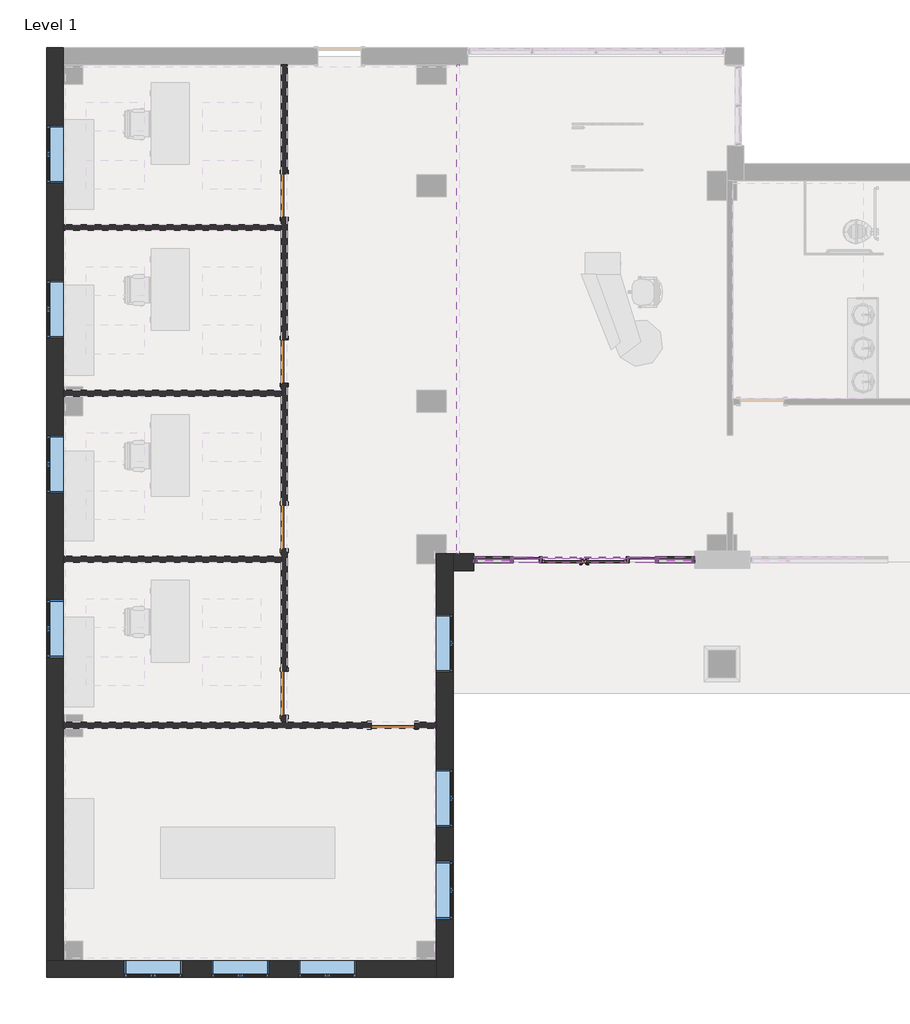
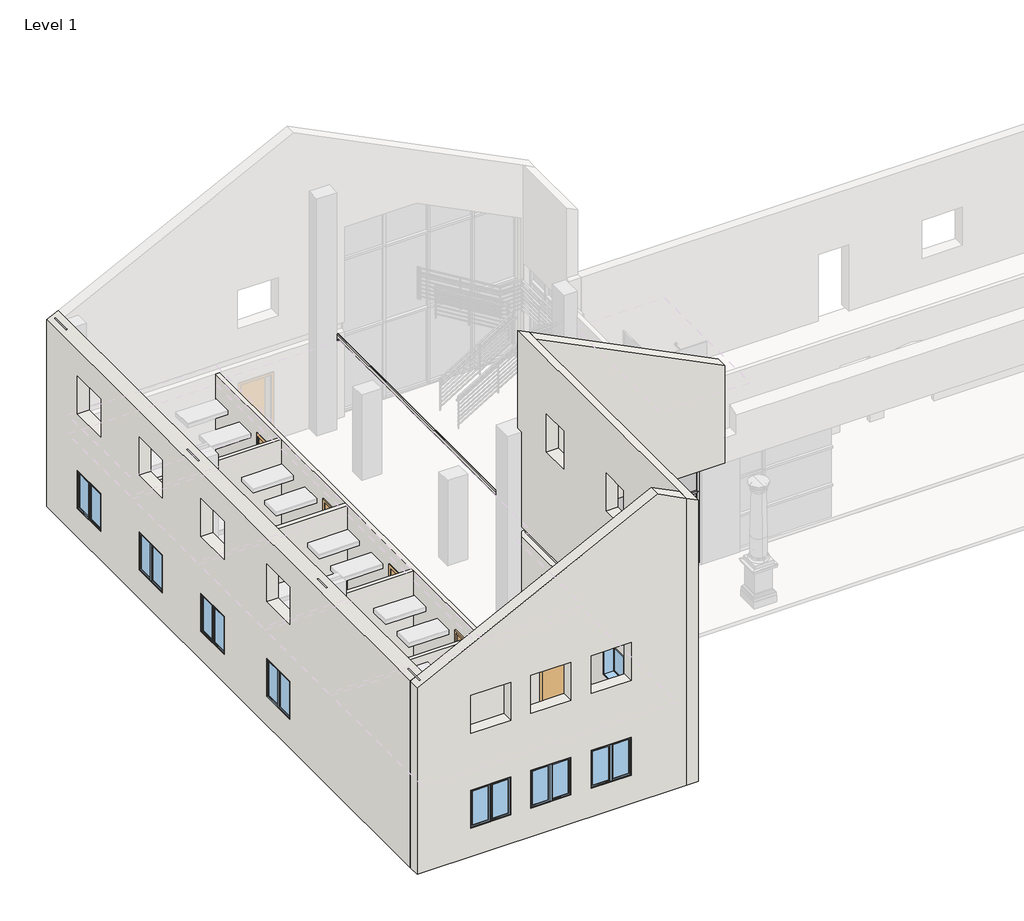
# One storey, part 1 of 8: 28 members, 10 walls, 10 windows, 9 plates, 6 doors.
"""IFC4 building model written with IfcOpenShell, lengths in millimetres."""

from ifc_helpers import new_model, si_unit, origin, origin_with_axes, place, context, project, spatial, polyline, outline, extrude, faceted_brep, transform, mapped, element, save
from components import curtain_wall_store_front_dbl_store_front_double_door_b1cda55e, door_eb9f8b14, member_a715cb85, member_2b49869a, member_c7c5a8a0, member_f3028526, member_75074519, member_c4de40ee, member_2fae0574, member_47bfaf8a, member_13dc6413, member_4ab4c2f5, member_b955a9e9, member_b5e65c95, member_b3f2e294, member_d60e8053, system_panel_glazed_53b4157c, system_panel_glazed_7b5ce646, system_panel_glazed_23a32a5b, system_panel_glazed_4b03a3f1, system_panel_glazed_8ee2ed70, system_panel_glazed_2f00aa6c, system_panel_solid_88a3d8df, system_panel_solid_fd037ff6, window_75435c65

model = new_model("IFC4")

# Units and contexts
model_context = context("Model", 3, world=origin())
ifc_project = project(units=[si_unit("LENGTHUNIT", "METRE", prefix="MILLI")], contexts=[model_context])

# Site, building, storey
site = spatial("IfcSite", under=ifc_project)
building = spatial("IfcBuilding", under=site)
storey = spatial("IfcBuildingStorey", under=building, Name="Level 1", Elevation=0.0)

# Doors
placement = place(None, origin())
curtain_wall_store_front_dbl_store_front_double_door_shape = curtain_wall_store_front_dbl_store_front_double_door_b1cda55e(model_context)
element("IfcDoor", 1, ObjectType="Curtain Wall-Store Front-Dbl : Store Front Double Door", at=placement, inside=storey, context=model_context, shape_type="MappedRepresentation", body=[
    mapped(curtain_wall_store_front_dbl_store_front_double_door_shape, transform((-2655.3516552, 175.3980424, 0.0), x_axis=(1.0, 0.0, 0.0), y_axis=(0.0, 1.0, 0.0), z_axis=(0.0, 0.0, 1.0))),
])
door_shape = door_eb9f8b14(model_context)
element("IfcDoor", 2, ObjectType="Single-Flush : 36\" x 84\"", at=placement, inside=storey, context=model_context, shape_type="MappedRepresentation", body=[
    mapped(door_shape, transform((-6668.5516552, -3294.8769576, 0.0), x_axis=(1.0, 0.0, 0.0), y_axis=(0.0, 1.0, 0.0), z_axis=(0.0, 0.0, 1.0))),
])
element("IfcDoor", 3, ObjectType="Single-Flush : 36\" x 84\"", at=placement, inside=storey, context=model_context, shape_type="MappedRepresentation", body=[
    mapped(door_shape, transform((-8949.7891552, -2623.3644576, 0.0), x_axis=(0.0, -1.0, 0.0), y_axis=(1.0, 0.0, 0.0), z_axis=(0.0, 0.0, 1.0))),
])
element("IfcDoor", 4, ObjectType="Single-Flush : 36\" x 84\"", at=placement, inside=storey, context=model_context, shape_type="MappedRepresentation", body=[
    mapped(door_shape, transform((-8949.7891552, 862.7855424, 0.0), x_axis=(0.0, -1.0, 0.0), y_axis=(1.0, 0.0, 0.0), z_axis=(0.0, 0.0, 1.0))),
])
element("IfcDoor", 5, ObjectType="Single-Flush : 36\" x 84\"", at=placement, inside=storey, context=model_context, shape_type="MappedRepresentation", body=[
    mapped(door_shape, transform((-8949.7891552, 4339.4105424, 0.0), x_axis=(0.0, -1.0, 0.0), y_axis=(1.0, 0.0, 0.0), z_axis=(0.0, 0.0, 1.0))),
])
element("IfcDoor", 6, ObjectType="Single-Flush : 36\" x 84\"", at=placement, inside=storey, context=model_context, shape_type="MappedRepresentation", body=[
    mapped(door_shape, transform((-8949.7891552, 7820.7980424, 0.0), x_axis=(0.0, -1.0, 0.0), y_axis=(1.0, 0.0, 0.0), z_axis=(0.0, 0.0, 1.0))),
])

# Members
member_shape = member_a715cb85(model_context)
element("IfcMember", 7, ObjectType="Rectangular Mullion : 2.5\" x 5\" Rectangular", at=placement, inside=storey, context=model_context, shape_type="MappedRepresentation", body=[
    mapped(member_shape, transform((-4179.3516552, 175.3980424, 0.0), x_axis=(1.0, 0.0, 0.0), y_axis=(0.0, -1.0, 0.0), z_axis=(0.0, 0.0, -1.0))),
])
element("IfcMember", 8, ObjectType="Rectangular Mullion : 2.5\" x 5\" Rectangular", at=placement, inside=storey, context=model_context, shape_type="MappedRepresentation", body=[
    mapped(member_shape, transform((-1131.3516552, 175.3980424, 0.0), x_axis=(1.0, 0.0, 0.0), y_axis=(0.0, -1.0, 0.0), z_axis=(0.0, 0.0, -1.0))),
])
element("IfcMember", 9, ObjectType="Rectangular Mullion : 2.5\" x 5\" Rectangular", at=placement, inside=storey, context=model_context, shape_type="MappedRepresentation", body=[
    mapped(member_shape, transform((-369.3516552, 175.3980424, 0.0), x_axis=(1.0, 0.0, 0.0), y_axis=(0.0, -1.0, 0.0), z_axis=(0.0, 0.0, -1.0))),
])
member_2_shape = member_2b49869a(model_context)
element("IfcMember", 10, ObjectType="Rectangular Mullion : 2.5\" x 5\" Rectangular", at=placement, inside=storey, context=model_context, shape_type="MappedRepresentation", body=[
    mapped(member_2_shape, transform((-4179.3516552, 175.3980424, 1066.8), x_axis=(1.0, 0.0, 0.0), y_axis=(0.0, -1.0, 0.0), z_axis=(0.0, 0.0, -1.0))),
])
element("IfcMember", 11, ObjectType="Rectangular Mullion : 2.5\" x 5\" Rectangular", at=placement, inside=storey, context=model_context, shape_type="MappedRepresentation", body=[
    mapped(member_2_shape, transform((-1131.3516552, 175.3980424, 1066.8), x_axis=(1.0, 0.0, 0.0), y_axis=(0.0, -1.0, 0.0), z_axis=(0.0, 0.0, -1.0))),
])
element("IfcMember", 12, ObjectType="Rectangular Mullion : 2.5\" x 5\" Rectangular", at=placement, inside=storey, context=model_context, shape_type="MappedRepresentation", body=[
    mapped(member_2_shape, transform((-369.3516552, 175.3980424, 1066.8), x_axis=(1.0, 0.0, 0.0), y_axis=(0.0, -1.0, 0.0), z_axis=(0.0, 0.0, -1.0))),
])
member_3_shape = member_c7c5a8a0(model_context)
element("IfcMember", 13, ObjectType="Rectangular Mullion : 2.5\" x 5\" Rectangular", at=placement, inside=storey, context=model_context, shape_type="MappedRepresentation", body=[
    mapped(member_3_shape, transform((-401.1016552, 175.3980424, 2286.0), x_axis=(0.0, 0.0, 1.0), y_axis=(0.0, -1.0, 0.0), z_axis=(1.0, 0.0, 0.0))),
])
element("IfcMember", 14, ObjectType="Rectangular Mullion : 2.5\" x 5\" Rectangular", at=placement, inside=storey, context=model_context, shape_type="MappedRepresentation", body=[
    mapped(member_3_shape, transform((-401.1016552, 175.3980424, 1066.8), x_axis=(0.0, 0.0, 1.0), y_axis=(0.0, -1.0, 0.0), z_axis=(1.0, 0.0, 0.0))),
])
member_4_shape = member_f3028526(model_context)
element("IfcMember", 15, ObjectType="Rectangular Mullion : 2.5\" x 5\" Rectangular", at=placement, inside=storey, context=model_context, shape_type="MappedRepresentation", body=[
    mapped(member_4_shape, transform((-4211.1016552, 175.3980424, 2286.0), x_axis=(0.0, 0.0, 1.0), y_axis=(0.0, -1.0, 0.0), z_axis=(1.0, 0.0, 0.0))),
])
element("IfcMember", 16, ObjectType="Rectangular Mullion : 2.5\" x 5\" Rectangular", at=placement, inside=storey, context=model_context, shape_type="MappedRepresentation", body=[
    mapped(member_4_shape, transform((-4211.1016552, 175.3980424, 1066.8), x_axis=(0.0, 0.0, 1.0), y_axis=(0.0, -1.0, 0.0), z_axis=(1.0, 0.0, 0.0))),
])
member_5_shape = member_75074519(model_context)
element("IfcMember", 17, ObjectType="Rectangular Mullion : 2.5\" x 5\" Rectangular", at=placement, inside=storey, context=model_context, shape_type="MappedRepresentation", body=[
    mapped(member_5_shape, transform((-4968.3391552, 175.3980424, 2286.0), x_axis=(-1.0, 0.0, 0.0), y_axis=(0.0, -1.0, 0.0), z_axis=(0.0, 0.0, 1.0))),
])
member_6_shape = member_c4de40ee(model_context)
element("IfcMember", 18, ObjectType="Rectangular Mullion : 2.5\" x 5\" Rectangular", at=placement, inside=storey, context=model_context, shape_type="MappedRepresentation", body=[
    mapped(member_6_shape, transform((-4968.3391552, 175.3980424, 1066.8), x_axis=(-1.0, 0.0, 0.0), y_axis=(0.0, -1.0, 0.0), z_axis=(0.0, 0.0, 1.0))),
])
member_7_shape = member_2fae0574(model_context)
element("IfcMember", 19, ObjectType="Rectangular Mullion : 2.5\" x 5\" Rectangular", at=placement, inside=storey, context=model_context, shape_type="MappedRepresentation", body=[
    mapped(member_7_shape, transform((-1740.9516552, 175.3980424, 3048.0), x_axis=(0.0, 0.0, 1.0), y_axis=(0.0, -1.0, 0.0), z_axis=(1.0, 0.0, 0.0))),
])
element("IfcMember", 20, ObjectType="Rectangular Mullion : 2.5\" x 5\" Rectangular", at=placement, inside=storey, context=model_context, shape_type="MappedRepresentation", body=[
    mapped(member_3_shape, transform((-4179.3516552, 175.3980424, 2286.0), x_axis=(1.0, 0.0, 0.0), y_axis=(0.0, -1.0, 0.0), z_axis=(0.0, 0.0, -1.0))),
])
element("IfcMember", 21, ObjectType="Rectangular Mullion : 2.5\" x 5\" Rectangular", at=placement, inside=storey, context=model_context, shape_type="MappedRepresentation", body=[
    mapped(member_3_shape, transform((-1131.3516552, 175.3980424, 2286.0), x_axis=(1.0, 0.0, 0.0), y_axis=(0.0, -1.0, 0.0), z_axis=(0.0, 0.0, -1.0))),
])
element("IfcMember", 22, ObjectType="Rectangular Mullion : 2.5\" x 5\" Rectangular", at=placement, inside=storey, context=model_context, shape_type="MappedRepresentation", body=[
    mapped(member_3_shape, transform((-369.3516552, 175.3980424, 2286.0), x_axis=(1.0, 0.0, 0.0), y_axis=(0.0, -1.0, 0.0), z_axis=(0.0, 0.0, -1.0))),
])
member_8_shape = member_47bfaf8a(model_context)
element("IfcMember", 23, ObjectType="Rectangular Mullion : 2.5\" x 5\" Rectangular", at=placement, inside=storey, context=model_context, shape_type="MappedRepresentation", body=[
    mapped(member_8_shape, transform((-3569.7516552, 175.3980424, 3048.0), x_axis=(0.0, 0.0, 1.0), y_axis=(0.0, -1.0, 0.0), z_axis=(1.0, 0.0, 0.0))),
])
element("IfcMember", 24, ObjectType="Rectangular Mullion : 2.5\" x 5\" Rectangular", at=placement, inside=storey, context=model_context, shape_type="MappedRepresentation", body=[
    mapped(member_8_shape, transform((-1131.3516552, 175.3980424, 3048.0), x_axis=(0.0, 0.0, 1.0), y_axis=(0.0, -1.0, 0.0), z_axis=(1.0, 0.0, 0.0))),
])
member_9_shape = member_13dc6413(model_context)
element("IfcMember", 25, ObjectType="Rectangular Mullion : 2.5\" x 5\" Rectangular", at=placement, inside=storey, context=model_context, shape_type="MappedRepresentation", body=[
    mapped(member_9_shape, transform((-337.6016552, 175.3980424, 3048.0), x_axis=(0.0, 0.0, 1.0), y_axis=(0.0, -1.0, 0.0), z_axis=(1.0, 0.0, 0.0))),
])
member_10_shape = member_4ab4c2f5(model_context)
element("IfcMember", 26, ObjectType="Rectangular Mullion : 2.5\" x 5\" Rectangular", at=placement, inside=storey, context=model_context, shape_type="MappedRepresentation", body=[
    mapped(member_10_shape, transform((-4179.3516552, 175.3980424, 3048.0), x_axis=(0.0, 0.0, 1.0), y_axis=(0.0, -1.0, 0.0), z_axis=(1.0, 0.0, 0.0))),
])
member_11_shape = member_b955a9e9(model_context)
element("IfcMember", 27, ObjectType="Rectangular Mullion : 2.5\" x 5\" Rectangular", at=placement, inside=storey, context=model_context, shape_type="MappedRepresentation", body=[
    mapped(member_11_shape, transform((-4968.3391552, 175.3980424, 2984.5), x_axis=(-1.0, 0.0, 0.0), y_axis=(0.0, -1.0, 0.0), z_axis=(0.0, 0.0, 1.0))),
])
element("IfcMember", 28, ObjectType="Rectangular Mullion : 2.5\" x 5\" Rectangular", at=placement, inside=storey, context=model_context, shape_type="MappedRepresentation", body=[
    mapped(member_shape, transform((-3569.7516552, 175.3980424, 0.0), x_axis=(1.0, 0.0, 0.0), y_axis=(0.0, -1.0, 0.0), z_axis=(0.0, 0.0, -1.0))),
])
element("IfcMember", 29, ObjectType="Rectangular Mullion : 2.5\" x 5\" Rectangular", at=placement, inside=storey, context=model_context, shape_type="MappedRepresentation", body=[
    mapped(member_shape, transform((-1740.9516552, 175.3980424, 0.0), x_axis=(1.0, 0.0, 0.0), y_axis=(0.0, -1.0, 0.0), z_axis=(0.0, 0.0, -1.0))),
])
member_12_shape = member_b5e65c95(model_context)
element("IfcMember", 30, ObjectType="Rectangular Mullion : 2.5\" x 5\" Rectangular", at=placement, inside=storey, context=model_context, shape_type="MappedRepresentation", body=[
    mapped(member_12_shape, transform((-3569.7516552, 175.3980424, 2286.0), x_axis=(0.0, 0.0, 1.0), y_axis=(0.0, -1.0, 0.0), z_axis=(1.0, 0.0, 0.0))),
])
member_13_shape = member_b3f2e294(model_context)
element("IfcMember", 31, ObjectType="Rectangular Mullion : 2.5\" x 5\" Rectangular", at=placement, inside=storey, context=model_context, shape_type="MappedRepresentation", body=[
    mapped(member_13_shape, transform((-3569.7516552, 175.3980424, 1066.8), x_axis=(1.0, 0.0, 0.0), y_axis=(0.0, -1.0, 0.0), z_axis=(0.0, 0.0, -1.0))),
])
element("IfcMember", 32, ObjectType="Rectangular Mullion : 2.5\" x 5\" Rectangular", at=placement, inside=storey, context=model_context, shape_type="MappedRepresentation", body=[
    mapped(member_13_shape, transform((-1740.9516552, 175.3980424, 1066.8), x_axis=(1.0, 0.0, 0.0), y_axis=(0.0, -1.0, 0.0), z_axis=(0.0, 0.0, -1.0))),
])
element("IfcMember", 33, ObjectType="Rectangular Mullion : 2.5\" x 5\" Rectangular", at=placement, inside=storey, context=model_context, shape_type="MappedRepresentation", body=[
    mapped(member_12_shape, transform((-1163.1016552, 175.3980424, 2286.0), x_axis=(0.0, 0.0, 1.0), y_axis=(0.0, -1.0, 0.0), z_axis=(1.0, 0.0, 0.0))),
])
member_14_shape = member_d60e8053(model_context)
element("IfcMember", 34, ObjectType="Rectangular Mullion : 2.5\" x 5\" Rectangular", at=placement, inside=storey, context=model_context, shape_type="MappedRepresentation", body=[
    mapped(member_14_shape, transform((-1740.9516552, 175.3980424, 2286.0), x_axis=(0.0, 0.0, 1.0), y_axis=(0.0, -1.0, 0.0), z_axis=(1.0, 0.0, 0.0))),
])

# Plates
system_panel_glazed_shape = system_panel_glazed_53b4157c(model_context)
element("IfcPlate", 35, ObjectType="System Panel : Glazed", at=placement, inside=storey, context=model_context, shape_type="MappedRepresentation", body=[
    mapped(system_panel_glazed_shape, transform((-750.3516552, 175.3980424, 0.0), x_axis=(1.0, 0.0, 0.0), y_axis=(0.0, 1.0, 0.0), z_axis=(0.0, 0.0, 1.0))),
])
system_panel_glazed_2_shape = system_panel_glazed_7b5ce646(model_context)
element("IfcPlate", 36, ObjectType="System Panel : Glazed", at=placement, inside=storey, context=model_context, shape_type="MappedRepresentation", body=[
    mapped(system_panel_glazed_2_shape, transform((-750.3516552, 175.3980424, 1098.55), x_axis=(1.0, 0.0, 0.0), y_axis=(0.0, 1.0, 0.0), z_axis=(0.0, 0.0, 1.0))),
])
system_panel_glazed_3_shape = system_panel_glazed_23a32a5b(model_context)
element("IfcPlate", 37, ObjectType="System Panel : Glazed", at=placement, inside=storey, context=model_context, shape_type="MappedRepresentation", body=[
    mapped(system_panel_glazed_3_shape, transform((-4557.9704052, 175.3980424, 0.0), x_axis=(1.0, 0.0, 0.0), y_axis=(0.0, 1.0, 0.0), z_axis=(0.0, 0.0, 1.0))),
])
system_panel_glazed_4_shape = system_panel_glazed_4b03a3f1(model_context)
element("IfcPlate", 38, ObjectType="System Panel : Glazed", at=placement, inside=storey, context=model_context, shape_type="MappedRepresentation", body=[
    mapped(system_panel_glazed_4_shape, transform((-4557.9704052, 175.3980424, 1098.55), x_axis=(1.0, 0.0, 0.0), y_axis=(0.0, 1.0, 0.0), z_axis=(0.0, 0.0, 1.0))),
])
system_panel_glazed_5_shape = system_panel_glazed_8ee2ed70(model_context)
element("IfcPlate", 39, ObjectType="System Panel : Glazed", at=placement, inside=storey, context=model_context, shape_type="MappedRepresentation", body=[
    mapped(system_panel_glazed_5_shape, transform((-2655.3516552, 175.3980424, 2317.75), x_axis=(1.0, 0.0, 0.0), y_axis=(0.0, 1.0, 0.0), z_axis=(0.0, 0.0, 1.0))),
])
system_panel_glazed_6_shape = system_panel_glazed_2f00aa6c(model_context)
element("IfcPlate", 40, ObjectType="System Panel : Glazed", at=placement, inside=storey, context=model_context, shape_type="MappedRepresentation", body=[
    mapped(system_panel_glazed_6_shape, transform((-3874.5516552, 175.3980424, 0.0), x_axis=(1.0, 0.0, 0.0), y_axis=(0.0, 1.0, 0.0), z_axis=(0.0, 0.0, 1.0))),
])
element("IfcPlate", 41, ObjectType="System Panel : Glazed", at=placement, inside=storey, context=model_context, shape_type="MappedRepresentation", body=[
    mapped(system_panel_glazed_6_shape, transform((-1436.1516552, 175.3980424, 0.0), x_axis=(1.0, 0.0, 0.0), y_axis=(0.0, 1.0, 0.0), z_axis=(0.0, 0.0, 1.0))),
])
system_panel_solid_shape = system_panel_solid_88a3d8df(model_context)
element("IfcPlate", 42, ObjectType="System Panel : Solid", at=placement, inside=storey, context=model_context, shape_type="MappedRepresentation", body=[
    mapped(system_panel_solid_shape, transform((-4557.9704052, 175.3980424, 2317.75), x_axis=(1.0, 0.0, 0.0), y_axis=(0.0, 1.0, 0.0), z_axis=(0.0, 0.0, 1.0))),
])
system_panel_solid_2_shape = system_panel_solid_fd037ff6(model_context)
element("IfcPlate", 43, ObjectType="System Panel : Solid", at=placement, inside=storey, context=model_context, shape_type="MappedRepresentation", body=[
    mapped(system_panel_solid_2_shape, transform((-750.3516552, 175.3980424, 2317.75), x_axis=(1.0, 0.0, 0.0), y_axis=(0.0, 1.0, 0.0), z_axis=(0.0, 0.0, 1.0))),
])

# Walls
element("IfcWall", 44, ObjectType="Soffit - 1/2\" GWB & Metal Stud", at=placement, inside=storey, context=model_context, shape_type="Brep", body=[
    faceted_brep([(-5273.1391552, 10568.7605424, 2743.2), (-5273.1391552, 300.8105424, 2743.2), (-5273.1391552, 300.8105424, 2540.0), (-5273.1391552, 351.6105424, 2540.0), (-5273.1391552, 351.6105424, 2647.95), (-5273.1391552, 10517.9605424, 2647.95), (-5273.1391552, 10517.9605424, 2540.0), (-5273.1391552, 10568.7605424, 2540.0), (-5323.9391552, 10568.7605424, 2743.2), (-5323.9391552, 10568.7605424, 2540.0), (-5323.9391552, 10517.9605424, 2540.0), (-5323.9391552, 10517.9605424, 2647.95), (-5323.9391552, 351.6105424, 2647.95), (-5323.9391552, 351.6105424, 2540.0), (-5323.9391552, 300.8105424, 2540.0), (-5323.9391552, 300.8105424, 2743.2), (-5284.2516552, 10568.7605424, 2743.2), (-5284.2516552, 9554.527236, 2743.2), (-5284.2516552, 300.8105424, 2743.2)], [[[0, 1, 2, 3, 4, 5, 6, 7]], [[8, 9, 10, 11, 12, 13, 14, 15]], [[9, 7, 6, 10]], [[2, 14, 13, 3]], [[11, 5, 4, 12]], [[12, 4, 3, 13]], [[5, 11, 10, 6]], [[1, 0, 16, 17, 18]], [[0, 7, 9, 8, 16]], [[2, 1, 18, 15, 14]], [[16, 8, 15, 18, 17]]]),
])
element("IfcWall", 45, ObjectType="Exterior - Brick on Mtl. Stud", at=placement, inside=storey, context=model_context, shape_type="Brep", body=[
    faceted_brep([(-5754.1516552, 300.8105424, 0.0), (-5754.1516552, 97.6105424, 0.0), (-5754.1516552, -3232.9644576, 0.0), (-5754.1516552, -3356.7894576, 0.0), (-5754.1516552, -7824.0144576, 0.0), (-5754.1516552, -8233.5894576, 0.0), (-5754.1516552, -8586.0144576, 0.0), (-5754.1516552, -8586.0144576, 9226.55), (-5754.1516552, -8233.5894576, 9226.55), (-5754.1516552, 300.8105424, 9226.55), (-5754.1516552, 300.8105424, 6096.0), (-5754.1516552, 300.8105424, 3048.0), (-5754.1516552, -3232.9644576, 3048.0), (-5754.1516552, -3356.7894576, 3048.0), (-5754.1516552, -8233.5894576, 3048.0), (-5754.1516552, -8398.6894576, 3048.0), (-5754.1516552, -8398.6894576, 2743.2), (-5754.1516552, -8233.5894576, 2743.2), (-5754.1516552, -3356.7894576, 2743.2), (-5754.1516552, -3232.9644576, 2743.2), (-5754.1516552, 300.8105424, 2743.2), (-5754.1516552, -7366.8144576, 2133.6), (-5754.1516552, -7366.8144576, 914.4), (-5754.1516552, -6147.6144576, 914.4), (-5754.1516552, -6147.6144576, 2133.6), (-5754.1516552, -5436.4144576, 2133.6), (-5754.1516552, -5436.4144576, 914.4), (-5754.1516552, -4217.2144576, 914.4), (-5754.1516552, -4217.2144576, 2133.6), (-5754.1516552, -2185.2144576, 2133.6), (-5754.1516552, -2185.2144576, 914.4), (-5754.1516552, -966.0144576, 914.4), (-5754.1516552, -966.0144576, 2133.6), (-5754.1516552, -2134.4144576, 7467.6), (-5754.1516552, -2134.4144576, 6248.4), (-5754.1516552, -1220.0144576, 6248.4), (-5754.1516552, -1220.0144576, 7467.6), (-5754.1516552, -5268.1394576, 7467.6), (-5754.1516552, -5268.1394576, 6248.4), (-5754.1516552, -4353.7394576, 6248.4), (-5754.1516552, -4353.7394576, 7467.6), (-5754.1516552, -7166.7894576, 7467.6), (-5754.1516552, -7166.7894576, 6248.4), (-5754.1516552, -6252.3894576, 6248.4), (-5754.1516552, -6252.3894576, 7467.6), (-5754.1516552, -5420.5394576, 5181.6), (-5754.1516552, -5420.5394576, 3962.4), (-5754.1516552, -4201.3394576, 3962.4), (-5754.1516552, -4201.3394576, 5181.6), (-5754.1516552, -7319.1894576, 5181.6), (-5754.1516552, -7319.1894576, 3962.4), (-5754.1516552, -6099.9894576, 3962.4), (-5754.1516552, -6099.9894576, 5181.6), (-5401.7266552, -8586.0144576, 0.0), (-5401.7266552, -51.6144576, 0.0), (-5401.7266552, 300.8105424, 0.0), (-5401.7266552, 300.8105424, 2743.2), (-5401.7266552, 175.3980424, 2743.2), (-5401.7266552, 175.3980424, 3048.0), (-5401.7266552, 300.8105424, 3048.0), (-5401.7266552, 300.8105424, 9050.3375), (-5401.7266552, -51.6144576, 9050.3375), (-5401.7266552, -8586.0144576, 9050.3375), (-5401.7266552, -7366.8144576, 914.4), (-5401.7266552, -7366.8144576, 2133.6), (-5401.7266552, -6147.6144576, 2133.6), (-5401.7266552, -6147.6144576, 914.4), (-5401.7266552, -5436.4144576, 914.4), (-5401.7266552, -5436.4144576, 2133.6), (-5401.7266552, -4217.2144576, 2133.6), (-5401.7266552, -4217.2144576, 914.4), (-5401.7266552, -2185.2144576, 914.4), (-5401.7266552, -2185.2144576, 2133.6), (-5401.7266552, -966.0144576, 2133.6), (-5401.7266552, -966.0144576, 914.4), (-5401.7266552, -2134.4144576, 6248.4), (-5401.7266552, -2134.4144576, 7467.6), (-5401.7266552, -1220.0144576, 7467.6), (-5401.7266552, -1220.0144576, 6248.4), (-5401.7266552, -5268.1394576, 6248.4), (-5401.7266552, -5268.1394576, 7467.6), (-5401.7266552, -4353.7394576, 7467.6), (-5401.7266552, -4353.7394576, 6248.4), (-5401.7266552, -7166.7894576, 6248.4), (-5401.7266552, -7166.7894576, 7467.6), (-5401.7266552, -6252.3894576, 7467.6), (-5401.7266552, -6252.3894576, 6248.4), (-5401.7266552, -5420.5394576, 3962.4), (-5401.7266552, -5420.5394576, 5181.6), (-5401.7266552, -4201.3394576, 5181.6), (-5401.7266552, -4201.3394576, 3962.4), (-5401.7266552, -7319.1894576, 3962.4), (-5401.7266552, -7319.1894576, 5181.6), (-5401.7266552, -6099.9894576, 5181.6), (-5401.7266552, -6099.9894576, 3962.4), (-5554.1266552, 300.8105424, 0.0), (-5589.0516552, -8398.6894576, 2743.2), (-5589.0516552, 175.3980424, 2743.2), (-5589.0516552, 175.3980424, 3048.0), (-5589.0516552, -8398.6894576, 3048.0)], [[[0, 1, 2, 3, 4, 5, 6, 7, 8, 9, 10, 11, 12, 13, 14, 15, 16, 17, 18, 19, 20], [21, 22, 23, 24], [25, 26, 27, 28], [29, 30, 31, 32], [33, 34, 35, 36], [37, 38, 39, 40], [41, 42, 43, 44], [45, 46, 47, 48], [49, 50, 51, 52]], [[53, 54, 55, 56, 57, 58, 59, 60, 61, 62], [63, 64, 65, 66], [67, 68, 69, 70], [71, 72, 73, 74], [75, 76, 77, 78], [79, 80, 81, 82], [83, 84, 85, 86], [87, 88, 89, 90], [91, 92, 93, 94]], [[6, 5, 4, 3, 2, 1, 0, 95, 55, 54, 53]], [[22, 21, 64, 63]], [[23, 22, 63, 66]], [[24, 23, 66, 65]], [[21, 24, 65, 64]], [[26, 25, 68, 67]], [[27, 26, 67, 70]], [[28, 27, 70, 69]], [[25, 28, 69, 68]], [[30, 29, 72, 71]], [[31, 30, 71, 74]], [[32, 31, 74, 73]], [[29, 32, 73, 72]], [[9, 8, 7, 62, 61, 60]], [[34, 33, 76, 75]], [[35, 34, 75, 78]], [[36, 35, 78, 77]], [[33, 36, 77, 76]], [[38, 37, 80, 79]], [[39, 38, 79, 82]], [[40, 39, 82, 81]], [[37, 40, 81, 80]], [[42, 41, 84, 83]], [[43, 42, 83, 86]], [[44, 43, 86, 85]], [[41, 44, 85, 84]], [[46, 45, 88, 87]], [[47, 46, 87, 90]], [[48, 47, 90, 89]], [[45, 48, 89, 88]], [[50, 49, 92, 91]], [[51, 50, 91, 94]], [[52, 51, 94, 93]], [[49, 52, 93, 92]], [[96, 97, 57, 56, 20, 19, 18, 17, 16]], [[98, 99, 15, 14, 13, 12, 11, 59, 58]], [[97, 96, 99, 98]], [[99, 96, 16, 15]], [[9, 60, 59, 11, 10]], [[55, 95, 0, 20, 56]], [[7, 6, 53, 62]], [[97, 98, 58, 57]]]),
])
element("IfcWall", 46, ObjectType="Exterior - Brick on Mtl. Stud", at=placement, inside=storey, context=model_context, shape_type="Brep", body=[
    faceted_brep([(-5754.1516552, -8233.5894576, 0.0), (-6163.7266552, -8233.5894576, 0.0), (-13174.1266552, -8233.5894576, 0.0), (-13583.7016552, -8233.5894576, 0.0), (-13936.1266552, -8233.5894576, 0.0), (-13936.1266552, -8233.5894576, 6002.3375), (-13583.7016552, -8233.5894576, 6178.55), (-6620.9266552, -8233.5894576, 9659.9375), (-5754.1516552, -8233.5894576, 9226.55), (-5754.1516552, -8233.5894576, 6096.0), (-5754.1516552, -8233.5894576, 3048.0), (-13583.7016552, -8233.5894576, 3048.0), (-13596.4016552, -8233.5894576, 3048.0), (-13596.4016552, -8233.5894576, 2743.2), (-13583.7016552, -8233.5894576, 2743.2), (-5754.1516552, -8233.5894576, 2743.2), (-12310.5266552, -8233.5894576, 2133.6), (-12310.5266552, -8233.5894576, 914.4), (-11091.3266552, -8233.5894576, 914.4), (-11091.3266552, -8233.5894576, 2133.6), (-10481.7266552, -8233.5894576, 2133.6), (-10481.7266552, -8233.5894576, 914.4), (-9262.5266552, -8233.5894576, 914.4), (-9262.5266552, -8233.5894576, 2133.6), (-8652.9266552, -8233.5894576, 2133.6), (-8652.9266552, -8233.5894576, 914.4), (-7433.7266552, -8233.5894576, 914.4), (-7433.7266552, -8233.5894576, 2133.6), (-8652.9266552, -8233.5894576, 5181.6), (-8652.9266552, -8233.5894576, 3962.4), (-7433.7266552, -8233.5894576, 3962.4), (-7433.7266552, -8233.5894576, 5181.6), (-10481.7266552, -8233.5894576, 5181.6), (-10481.7266552, -8233.5894576, 3962.4), (-9262.5266552, -8233.5894576, 3962.4), (-9262.5266552, -8233.5894576, 5181.6), (-12310.5266552, -8233.5894576, 5181.6), (-12310.5266552, -8233.5894576, 3962.4), (-11091.3266552, -8233.5894576, 3962.4), (-11091.3266552, -8233.5894576, 5181.6), (-13936.1266552, -8586.0144576, 0.0), (-5754.1516552, -8586.0144576, 0.0), (-5754.1516552, -8586.0144576, 9226.55), (-6620.9266552, -8586.0144576, 9659.9375), (-13936.1266552, -8586.0144576, 6002.3375), (-12310.5266552, -8586.0144576, 914.4), (-12310.5266552, -8586.0144576, 2133.6), (-11091.3266552, -8586.0144576, 2133.6), (-11091.3266552, -8586.0144576, 914.4), (-10481.7266552, -8586.0144576, 914.4), (-10481.7266552, -8586.0144576, 2133.6), (-9262.5266552, -8586.0144576, 2133.6), (-9262.5266552, -8586.0144576, 914.4), (-8652.9266552, -8586.0144576, 914.4), (-8652.9266552, -8586.0144576, 2133.6), (-7433.7266552, -8586.0144576, 2133.6), (-7433.7266552, -8586.0144576, 914.4), (-8652.9266552, -8586.0144576, 3962.4), (-8652.9266552, -8586.0144576, 5181.6), (-7433.7266552, -8586.0144576, 5181.6), (-7433.7266552, -8586.0144576, 3962.4), (-10481.7266552, -8586.0144576, 3962.4), (-10481.7266552, -8586.0144576, 5181.6), (-9262.5266552, -8586.0144576, 5181.6), (-9262.5266552, -8586.0144576, 3962.4), (-12310.5266552, -8586.0144576, 3962.4), (-12310.5266552, -8586.0144576, 5181.6), (-11091.3266552, -8586.0144576, 5181.6), (-11091.3266552, -8586.0144576, 3962.4), (-13596.4016552, -8398.6894576, 2743.2), (-5754.1516552, -8398.6894576, 2743.2), (-5754.1516552, -8398.6894576, 3048.0), (-13596.4016552, -8398.6894576, 3048.0)], [[[0, 1, 2, 3, 4, 5, 6, 7, 8, 9, 10, 11, 12, 13, 14, 15], [16, 17, 18, 19], [20, 21, 22, 23], [24, 25, 26, 27], [28, 29, 30, 31], [32, 33, 34, 35], [36, 37, 38, 39]], [[40, 41, 42, 43, 44], [45, 46, 47, 48], [49, 50, 51, 52], [53, 54, 55, 56], [57, 58, 59, 60], [61, 62, 63, 64], [65, 66, 67, 68]], [[4, 3, 2, 1, 0, 41, 40]], [[17, 16, 46, 45]], [[18, 17, 45, 48]], [[19, 18, 48, 47]], [[16, 19, 47, 46]], [[21, 20, 50, 49]], [[22, 21, 49, 52]], [[23, 22, 52, 51]], [[20, 23, 51, 50]], [[25, 24, 54, 53]], [[26, 25, 53, 56]], [[27, 26, 56, 55]], [[24, 27, 55, 54]], [[8, 7, 43, 42]], [[7, 6, 5, 44, 43]], [[29, 28, 58, 57]], [[30, 29, 57, 60]], [[31, 30, 60, 59]], [[28, 31, 59, 58]], [[33, 32, 62, 61]], [[34, 33, 61, 64]], [[35, 34, 64, 63]], [[32, 35, 63, 62]], [[37, 36, 66, 65]], [[38, 37, 65, 68]], [[39, 38, 68, 67]], [[36, 39, 67, 66]], [[13, 69, 70, 15, 14]], [[71, 72, 12, 11, 10]], [[69, 72, 71, 70]], [[72, 69, 13, 12]], [[5, 4, 40, 44]], [[8, 42, 41, 0, 15, 70, 71, 10, 9]]]),
])
element("IfcWall", 47, ObjectType="Exterior - Brick on Mtl. Stud", at=placement, inside=storey, context=model_context, shape_type="Brep", body=[
    faceted_brep([(-13583.7016552, -8233.5894576, 0.0), (-13583.7016552, -7824.0144576, 0.0), (-13583.7016552, -3531.4144576, 0.0), (-13583.7016552, -3356.7894576, 0.0), (-13583.7016552, -3232.9644576, 0.0), (-13583.7016552, -3074.2144576, 0.0), (-13583.7016552, 124.5980424, 0.0), (-13583.7016552, 248.4230424, 0.0), (-13583.7016552, 3199.5855424, 0.0), (-13583.7016552, 3605.9855424, 0.0), (-13583.7016552, 3729.8105424, 0.0), (-13583.7016552, 3809.1855424, 0.0), (-13583.7016552, 7087.3730424, 0.0), (-13583.7016552, 7211.1980424, 0.0), (-13583.7016552, 10156.0105424, 0.0), (-13583.7016552, 10568.7605424, 0.0), (-13583.7016552, 10921.1855424, 0.0), (-13583.7016552, 10921.1855424, 6178.55), (-13583.7016552, 10568.7605424, 6178.55), (-13583.7016552, -8233.5894576, 6178.55), (-13583.7016552, -8233.5894576, 6096.0), (-13583.7016552, -8233.5894576, 3048.0), (-13583.7016552, -3356.7894576, 3048.0), (-13583.7016552, -3232.9644576, 3048.0), (-13583.7016552, 124.5980424, 3048.0), (-13583.7016552, 248.4230424, 3048.0), (-13583.7016552, 3605.9855424, 3048.0), (-13583.7016552, 3729.8105424, 3048.0), (-13583.7016552, 7087.3730424, 3048.0), (-13583.7016552, 7211.1980424, 3048.0), (-13583.7016552, 10568.7605424, 3048.0), (-13583.7016552, 10733.8605424, 3048.0), (-13583.7016552, 10733.8605424, 2743.2), (-13583.7016552, 10568.7605424, 2743.2), (-13583.7016552, 7211.1980424, 2743.2), (-13583.7016552, 7087.3730424, 2743.2), (-13583.7016552, 3729.8105424, 2743.2), (-13583.7016552, 3605.9855424, 2743.2), (-13583.7016552, 248.4230424, 2743.2), (-13583.7016552, 124.5980424, 2743.2), (-13583.7016552, -3232.9644576, 2743.2), (-13583.7016552, -3356.7894576, 2743.2), (-13583.7016552, -8233.5894576, 2743.2), (-13583.7016552, -661.2144576, 2133.6), (-13583.7016552, -661.2144576, 914.4), (-13583.7016552, -1880.4144576, 914.4), (-13583.7016552, -1880.4144576, 2133.6), (-13583.7016552, 2793.1855424, 2133.6), (-13583.7016552, 2793.1855424, 914.4), (-13583.7016552, 1573.9855424, 914.4), (-13583.7016552, 1573.9855424, 2133.6), (-13583.7016552, 6044.3855424, 2133.6), (-13583.7016552, 6044.3855424, 914.4), (-13583.7016552, 4825.1855424, 914.4), (-13583.7016552, 4825.1855424, 2133.6), (-13583.7016552, 9295.5855424, 2133.6), (-13583.7016552, 9295.5855424, 914.4), (-13583.7016552, 8076.3855424, 914.4), (-13583.7016552, 8076.3855424, 2133.6), (-13583.7016552, 9295.5855424, 5181.6), (-13583.7016552, 9295.5855424, 3962.4), (-13583.7016552, 8076.3855424, 3962.4), (-13583.7016552, 8076.3855424, 5181.6), (-13583.7016552, 6044.3855424, 5181.6), (-13583.7016552, 6044.3855424, 3962.4), (-13583.7016552, 4825.1855424, 3962.4), (-13583.7016552, 4825.1855424, 5181.6), (-13583.7016552, 2793.1855424, 5181.6), (-13583.7016552, 2793.1855424, 3962.4), (-13583.7016552, 1573.9855424, 3962.4), (-13583.7016552, 1573.9855424, 5181.6), (-13583.7016552, -661.2144576, 5181.6), (-13583.7016552, -661.2144576, 3962.4), (-13583.7016552, -1880.4144576, 3962.4), (-13583.7016552, -1880.4144576, 5181.6), (-13936.1266552, 10921.1855424, 0.0), (-13936.1266552, -8233.5894576, 0.0), (-13936.1266552, -8233.5894576, 6002.3375), (-13936.1266552, 10921.1855424, 6002.3375), (-13936.1266552, -661.2144576, 914.4), (-13936.1266552, -661.2144576, 2133.6), (-13936.1266552, -1880.4144576, 2133.6), (-13936.1266552, -1880.4144576, 914.4), (-13936.1266552, 2793.1855424, 914.4), (-13936.1266552, 2793.1855424, 2133.6), (-13936.1266552, 1573.9855424, 2133.6), (-13936.1266552, 1573.9855424, 914.4), (-13936.1266552, 6044.3855424, 914.4), (-13936.1266552, 6044.3855424, 2133.6), (-13936.1266552, 4825.1855424, 2133.6), (-13936.1266552, 4825.1855424, 914.4), (-13936.1266552, 9295.5855424, 914.4), (-13936.1266552, 9295.5855424, 2133.6), (-13936.1266552, 8076.3855424, 2133.6), (-13936.1266552, 8076.3855424, 914.4), (-13936.1266552, 9295.5855424, 3962.4), (-13936.1266552, 9295.5855424, 5181.6), (-13936.1266552, 8076.3855424, 5181.6), (-13936.1266552, 8076.3855424, 3962.4), (-13936.1266552, 6044.3855424, 3962.4), (-13936.1266552, 6044.3855424, 5181.6), (-13936.1266552, 4825.1855424, 5181.6), (-13936.1266552, 4825.1855424, 3962.4), (-13936.1266552, 2793.1855424, 3962.4), (-13936.1266552, 2793.1855424, 5181.6), (-13936.1266552, 1573.9855424, 5181.6), (-13936.1266552, 1573.9855424, 3962.4), (-13936.1266552, -661.2144576, 3962.4), (-13936.1266552, -661.2144576, 5181.6), (-13936.1266552, -1880.4144576, 5181.6), (-13936.1266552, -1880.4144576, 3962.4), (-13596.4016552, 10733.8605424, 2743.2), (-13596.4016552, -8233.5894576, 2743.2), (-13596.4016552, 10733.8605424, 3048.0), (-13596.4016552, -8233.5894576, 3048.0)], [[[0, 1, 2, 3, 4, 5, 6, 7, 8, 9, 10, 11, 12, 13, 14, 15, 16, 17, 18, 19, 20, 21, 22, 23, 24, 25, 26, 27, 28, 29, 30, 31, 32, 33, 34, 35, 36, 37, 38, 39, 40, 41, 42], [43, 44, 45, 46], [47, 48, 49, 50], [51, 52, 53, 54], [55, 56, 57, 58], [59, 60, 61, 62], [63, 64, 65, 66], [67, 68, 69, 70], [71, 72, 73, 74]], [[75, 76, 77, 78], [79, 80, 81, 82], [83, 84, 85, 86], [87, 88, 89, 90], [91, 92, 93, 94], [95, 96, 97, 98], [99, 100, 101, 102], [103, 104, 105, 106], [107, 108, 109, 110]], [[16, 15, 14, 13, 12, 11, 10, 9, 8, 7, 6, 5, 4, 3, 2, 1, 0, 76, 75]], [[44, 43, 80, 79]], [[45, 44, 79, 82]], [[46, 45, 82, 81]], [[43, 46, 81, 80]], [[48, 47, 84, 83]], [[49, 48, 83, 86]], [[50, 49, 86, 85]], [[47, 50, 85, 84]], [[52, 51, 88, 87]], [[53, 52, 87, 90]], [[54, 53, 90, 89]], [[51, 54, 89, 88]], [[56, 55, 92, 91]], [[57, 56, 91, 94]], [[58, 57, 94, 93]], [[55, 58, 93, 92]], [[19, 18, 17, 78, 77]], [[60, 59, 96, 95]], [[61, 60, 95, 98]], [[62, 61, 98, 97]], [[59, 62, 97, 96]], [[64, 63, 100, 99]], [[65, 64, 99, 102]], [[66, 65, 102, 101]], [[63, 66, 101, 100]], [[68, 67, 104, 103]], [[69, 68, 103, 106]], [[70, 69, 106, 105]], [[67, 70, 105, 104]], [[72, 71, 108, 107]], [[73, 72, 107, 110]], [[74, 73, 110, 109]], [[71, 74, 109, 108]], [[111, 112, 42, 41, 40, 39, 38, 37, 36, 35, 34, 33, 32]], [[113, 31, 30, 29, 28, 27, 26, 25, 24, 23, 22, 21, 114]], [[113, 111, 32, 31]], [[111, 113, 114, 112]], [[17, 16, 75, 78]], [[77, 76, 0, 42, 112, 114, 21, 20, 19]]]),
])
element("IfcWall", 48, ObjectType="Exterior - Brick on Mtl. Stud", at=placement, inside=storey, context=model_context, shape_type="Brep", body=[
    faceted_brep([(-5401.7266552, 300.8105424, 9050.3375), (341.8483448, 300.8105424, 6178.55), (341.8483448, 300.8105424, 3860.8), (341.8483448, 300.8105424, 3048.0), (-4968.3391552, 300.8105424, 3048.0), (-4968.3391552, 300.8105424, 0.0), (-5401.7266552, 300.8105424, 0.0), (-5401.7266552, 300.8105424, 2743.2), (-5401.7266552, 300.8105424, 3048.0), (341.8483448, -51.6144576, 6178.55), (-5401.7266552, -51.6144576, 9050.3375), (-5401.7266552, -51.6144576, 0.0), (-4968.3391552, -51.6144576, 0.0), (-4968.3391552, -51.6144576, 3048.0), (341.8483448, -51.6144576, 3048.0), (341.8483448, -51.6144576, 3860.8), (341.8483448, -51.6144576, 4587.875)], [[[0, 1, 2, 3, 4, 5, 6, 7, 8]], [[9, 10, 11, 12, 13, 14, 15, 16]], [[11, 6, 5, 12]], [[1, 0, 10, 9]], [[0, 8, 7, 6, 11, 10]], [[3, 2, 1, 9, 16, 15, 14]], [[4, 13, 12, 5]], [[13, 4, 3, 14]]]),
])
element("IfcWall", 49, ObjectType="Interior - 4 7/8\" Partition (1-hr)", at=placement, inside=storey, context=model_context, shape_type="Brep", body=[
    faceted_brep([(-8887.8766552, 4796.6105424, 0.0), (-8887.8766552, 7363.5980424, 0.0), (-8887.8766552, 7363.5980424, 2133.6), (-8887.8766552, 8277.9980424, 2133.6), (-8887.8766552, 8277.9980424, 0.0), (-8887.8766552, 10568.7605424, 0.0), (-8887.8766552, 10568.7605424, 2743.2), (-8887.8766552, -3232.9644576, 2743.2), (-8887.8766552, -3232.9644576, 0.0), (-8887.8766552, -3080.5644576, 0.0), (-8887.8766552, -3080.5644576, 2133.6), (-8887.8766552, -2166.1644576, 2133.6), (-8887.8766552, -2166.1644576, 0.0), (-8887.8766552, 405.5855424, 0.0), (-8887.8766552, 405.5855424, 2133.6), (-8887.8766552, 1319.9855424, 2133.6), (-8887.8766552, 1319.9855424, 0.0), (-8887.8766552, 3882.2105424, 0.0), (-8887.8766552, 3882.2105424, 2133.6), (-8887.8766552, 4796.6105424, 2133.6), (-9011.7016552, 7363.5980424, 2133.6), (-9011.7016552, 7363.5980424, 0.0), (-9011.7016552, 7211.1980424, 0.0), (-9011.7016552, 7087.3730424, 0.0), (-9011.7016552, 4796.6105424, 0.0), (-9011.7016552, 4796.6105424, 2133.6), (-9011.7016552, 3882.2105424, 2133.6), (-9011.7016552, 3882.2105424, 0.0), (-9011.7016552, 3729.8105424, 0.0), (-9011.7016552, 3605.9855424, 0.0), (-9011.7016552, 1319.9855424, 0.0), (-9011.7016552, 1319.9855424, 2133.6), (-9011.7016552, 405.5855424, 2133.6), (-9011.7016552, 405.5855424, 0.0), (-9011.7016552, 248.4230424, 0.0), (-9011.7016552, 124.5980424, 0.0), (-9011.7016552, -2166.1644576, 0.0), (-9011.7016552, -2166.1644576, 2133.6), (-9011.7016552, -3080.5644576, 2133.6), (-9011.7016552, -3080.5644576, 0.0), (-9011.7016552, -3232.9644576, 0.0), (-9011.7016552, -3232.9644576, 2743.2), (-9011.7016552, 124.5980424, 2743.2), (-9011.7016552, 248.4230424, 2743.2), (-9011.7016552, 3605.9855424, 2743.2), (-9011.7016552, 3729.8105424, 2743.2), (-9011.7016552, 7087.3730424, 2743.2), (-9011.7016552, 7211.1980424, 2743.2), (-9011.7016552, 10568.7605424, 2743.2), (-9011.7016552, 10568.7605424, 0.0), (-9011.7016552, 8277.9980424, 0.0), (-9011.7016552, 8277.9980424, 2133.6)], [[[0, 1, 2, 3, 4, 5, 6, 7, 8, 9, 10, 11, 12, 13, 14, 15, 16, 17, 18, 19]], [[20, 21, 22, 23, 24, 25, 26, 27, 28, 29, 30, 31, 32, 33, 34, 35, 36, 37, 38, 39, 40, 41, 42, 43, 44, 45, 46, 47, 48, 49, 50, 51]], [[40, 39, 9, 8]], [[36, 35, 34, 33, 13, 12]], [[30, 29, 28, 27, 17, 16]], [[50, 49, 5, 4]], [[24, 23, 22, 21, 1, 0]], [[8, 7, 41, 40]], [[10, 9, 39, 38]], [[11, 10, 38, 37]], [[12, 11, 37, 36]], [[14, 13, 33, 32]], [[15, 14, 32, 31]], [[16, 15, 31, 30]], [[18, 17, 27, 26]], [[19, 18, 26, 25]], [[0, 19, 25, 24]], [[2, 1, 21, 20]], [[3, 2, 20, 51]], [[4, 3, 51, 50]], [[7, 6, 48, 47, 46, 45, 44, 43, 42, 41]], [[6, 5, 49, 48]]]),
])
element("IfcWall", 50, ObjectType="Interior - 4 7/8\" Partition (1-hr)", at=placement, inside=storey, context=model_context, shape_type="Brep", body=[
    faceted_brep([(-6211.3516552, -3356.7894576, 2133.6), (-6211.3516552, -3356.7894576, 0.0), (-5754.1516552, -3356.7894576, 0.0), (-5754.1516552, -3356.7894576, 2743.2), (-13174.1266552, -3356.7894576, 2743.2), (-13583.7016552, -3356.7894576, 2743.2), (-13583.7016552, -3356.7894576, 0.0), (-13174.1266552, -3356.7894576, 0.0), (-7125.7516552, -3356.7894576, 0.0), (-7125.7516552, -3356.7894576, 2133.6), (-5754.1516552, -3232.9644576, 0.0), (-6211.3516552, -3232.9644576, 0.0), (-6211.3516552, -3232.9644576, 2133.6), (-7125.7516552, -3232.9644576, 2133.6), (-7125.7516552, -3232.9644576, 0.0), (-8887.8766552, -3232.9644576, 0.0), (-9011.7016552, -3232.9644576, 0.0), (-13174.1266552, -3232.9644576, 0.0), (-13583.7016552, -3232.9644576, 0.0), (-13583.7016552, -3232.9644576, 2743.2), (-13174.1266552, -3232.9644576, 2743.2), (-9011.7016552, -3232.9644576, 2743.2), (-8887.8766552, -3232.9644576, 2743.2), (-5754.1516552, -3232.9644576, 2743.2)], [[[0, 1, 2, 3, 4, 5, 6, 7, 8, 9]], [[10, 11, 12, 13, 14, 15, 16, 17, 18, 19, 20, 21, 22, 23]], [[2, 1, 11, 10]], [[8, 7, 6, 18, 17, 16, 15, 14]], [[12, 11, 1, 0]], [[13, 12, 0, 9]], [[14, 13, 9, 8]], [[5, 4, 3, 23, 22, 21, 20, 19]], [[3, 2, 10, 23]], [[6, 5, 19, 18]]]),
])
element("IfcWall", 51, ObjectType="Interior - 4 7/8\" Partition (1-hr)", at=placement, inside=storey, context=model_context, shape_type="SweptSolid", body=[
    extrude(outline(polyline([(-9011.7016552, 124.5980424), (-13583.7016552, 124.5980424), (-13583.7016552, 248.4230424), (-9011.7016552, 248.4230424), (-9011.7016552, 124.5980424)])), origin_with_axes(), (0.0, 0.0, 1.0), 2743.2),
])
element("IfcWall", 52, ObjectType="Interior - 4 7/8\" Partition (1-hr)", at=placement, inside=storey, context=model_context, shape_type="Brep", body=[
    faceted_brep([(-13583.7016552, 3605.9855424, 0.0), (-13174.1266552, 3605.9855424, 0.0), (-9011.7016552, 3605.9855424, 0.0), (-9011.7016552, 3605.9855424, 2743.2), (-13174.1266552, 3605.9855424, 2743.2), (-13583.7016552, 3605.9855424, 2743.2), (-13583.7016552, 3729.8105424, 0.0), (-13583.7016552, 3729.8105424, 2743.2), (-13174.1266552, 3729.8105424, 2743.2), (-9011.7016552, 3729.8105424, 2743.2), (-9011.7016552, 3729.8105424, 0.0), (-13174.1266552, 3729.8105424, 0.0)], [[[0, 1, 2, 3, 4, 5]], [[6, 7, 8, 9, 10, 11]], [[2, 1, 0, 6, 11, 10]], [[3, 2, 10, 9]], [[5, 4, 3, 9, 8, 7]], [[0, 5, 7, 6]]]),
])
element("IfcWall", 53, ObjectType="Interior - 4 7/8\" Partition (1-hr)", at=placement, inside=storey, context=model_context, shape_type="SweptSolid", body=[
    extrude(outline(polyline([(-9011.7016552, 7087.3730424), (-13583.7016552, 7087.3730424), (-13583.7016552, 7211.1980424), (-9011.7016552, 7211.1980424), (-9011.7016552, 7087.3730424)])), origin_with_axes(), (0.0, 0.0, 1.0), 2743.2),
])

# Windows
window_shape = window_75435c65(model_context)
element("IfcWindow", 54, ObjectType="Casement Double : 48\" x 48\"", at=placement, inside=storey, context=model_context, shape_type="MappedRepresentation", body=[
    mapped(window_shape, transform((-13740.8641552, -1270.8144576, 0.0), x_axis=(0.0, 1.0, 0.0), y_axis=(-1.0, 0.0, 0.0), z_axis=(0.0, 0.0, 1.0))),
])
element("IfcWindow", 55, ObjectType="Casement Double : 48\" x 48\"", at=placement, inside=storey, context=model_context, shape_type="MappedRepresentation", body=[
    mapped(window_shape, transform((-13740.8641552, 2183.5855424, 0.0), x_axis=(0.0, 1.0, 0.0), y_axis=(-1.0, 0.0, 0.0), z_axis=(0.0, 0.0, 1.0))),
])
element("IfcWindow", 56, ObjectType="Casement Double : 48\" x 48\"", at=placement, inside=storey, context=model_context, shape_type="MappedRepresentation", body=[
    mapped(window_shape, transform((-13740.8641552, 5434.7855424, 0.0), x_axis=(0.0, 1.0, 0.0), y_axis=(-1.0, 0.0, 0.0), z_axis=(0.0, 0.0, 1.0))),
])
element("IfcWindow", 57, ObjectType="Casement Double : 48\" x 48\"", at=placement, inside=storey, context=model_context, shape_type="MappedRepresentation", body=[
    mapped(window_shape, transform((-13740.8641552, 8685.9855424, 0.0), x_axis=(0.0, 1.0, 0.0), y_axis=(-1.0, 0.0, 0.0), z_axis=(0.0, 0.0, 1.0))),
])
element("IfcWindow", 58, ObjectType="Casement Double : 48\" x 48\"", at=placement, inside=storey, context=model_context, shape_type="MappedRepresentation", body=[
    mapped(window_shape, transform((-11700.9266552, -8390.7519576, 0.0), x_axis=(-1.0, 0.0, 0.0), y_axis=(0.0, -1.0, 0.0), z_axis=(0.0, 0.0, 1.0))),
])
element("IfcWindow", 59, ObjectType="Casement Double : 48\" x 48\"", at=placement, inside=storey, context=model_context, shape_type="MappedRepresentation", body=[
    mapped(window_shape, transform((-9872.1266552, -8390.7519576, 0.0), x_axis=(-1.0, 0.0, 0.0), y_axis=(0.0, -1.0, 0.0), z_axis=(0.0, 0.0, 1.0))),
])
element("IfcWindow", 60, ObjectType="Casement Double : 48\" x 48\"", at=placement, inside=storey, context=model_context, shape_type="MappedRepresentation", body=[
    mapped(window_shape, transform((-8043.3266552, -8390.7519576, 0.0), x_axis=(-1.0, 0.0, 0.0), y_axis=(0.0, -1.0, 0.0), z_axis=(0.0, 0.0, 1.0))),
])
element("IfcWindow", 61, ObjectType="Casement Double : 48\" x 48\"", at=placement, inside=storey, context=model_context, shape_type="MappedRepresentation", body=[
    mapped(window_shape, transform((-5596.9891552, -6757.2144576, 0.0), x_axis=(0.0, -1.0, 0.0), y_axis=(1.0, 0.0, 0.0), z_axis=(0.0, 0.0, 1.0))),
])
element("IfcWindow", 62, ObjectType="Casement Double : 48\" x 48\"", at=placement, inside=storey, context=model_context, shape_type="MappedRepresentation", body=[
    mapped(window_shape, transform((-5596.9891552, -4826.8144576, 0.0), x_axis=(0.0, -1.0, 0.0), y_axis=(1.0, 0.0, 0.0), z_axis=(0.0, 0.0, 1.0))),
])
element("IfcWindow", 63, ObjectType="Casement Double : 48\" x 48\"", at=placement, inside=storey, context=model_context, shape_type="MappedRepresentation", body=[
    mapped(window_shape, transform((-5596.9891552, -1575.6144576, 0.0), x_axis=(0.0, -1.0, 0.0), y_axis=(1.0, 0.0, 0.0), z_axis=(0.0, 0.0, 1.0))),
])

save(model, "model.ifc")
